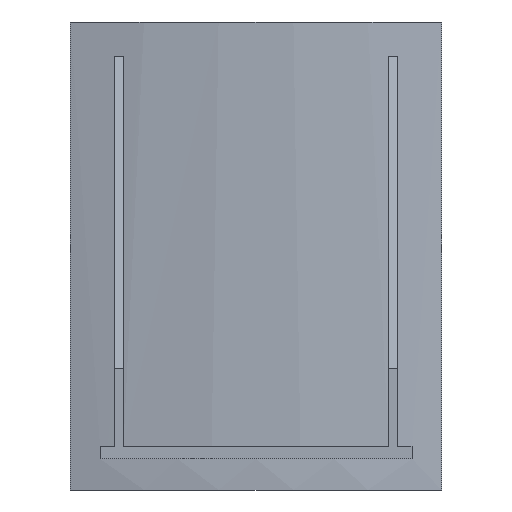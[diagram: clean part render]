
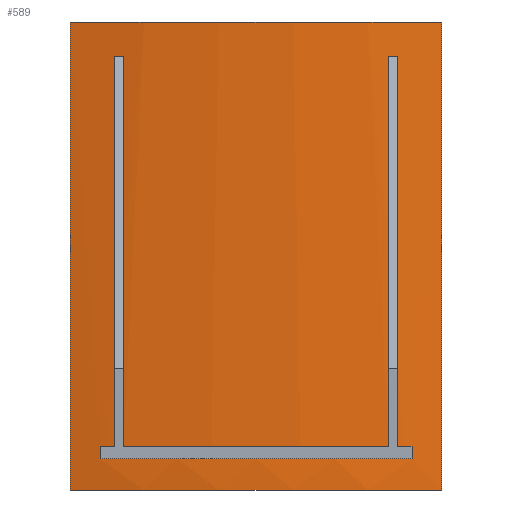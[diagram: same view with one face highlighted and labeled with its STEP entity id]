
A CAD part, left-side view. The second image highlights one B-rep face of the part: STEP entity #589.
In plain terms, the highlighted cylindrical face has radius 1043 mm (diameter 2086 mm), a partial arc.
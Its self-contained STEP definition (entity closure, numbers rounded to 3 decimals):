
#19=FACE_BOUND('',#106,.T.);
#70=FACE_OUTER_BOUND('',#105,.T.);
#105=EDGE_LOOP('',(#524,#525,#526,#527));
#106=EDGE_LOOP('',(#528,#529,#530,#531,#532,#533,#534,#535,#536,#537));
#165=LINE('',#955,#231);
#167=LINE('',#959,#233);
#168=LINE('',#967,#234);
#169=LINE('',#970,#235);
#170=LINE('',#971,#236);
#171=LINE('',#972,#237);
#231=VECTOR('',#785,10.);
#233=VECTOR('',#789,10.);
#234=VECTOR('',#798,10.);
#235=VECTOR('',#801,10.);
#236=VECTOR('',#802,10.);
#237=VECTOR('',#803,10.);
#252=CIRCLE('',#643,1043.);
#253=CIRCLE('',#645,1043.);
#254=CIRCLE('',#647,1043.);
#255=CIRCLE('',#651,1043.);
#256=CIRCLE('',#653,1043.);
#257=CIRCLE('',#654,1043.);
#284=VERTEX_POINT('',#892);
#285=VERTEX_POINT('',#894);
#298=VERTEX_POINT('',#933);
#299=VERTEX_POINT('',#935);
#300=VERTEX_POINT('',#943);
#301=VERTEX_POINT('',#947);
#302=VERTEX_POINT('',#953);
#303=VERTEX_POINT('',#957);
#304=VERTEX_POINT('',#963);
#305=VERTEX_POINT('',#964);
#306=VERTEX_POINT('',#966);
#307=VERTEX_POINT('',#968);
#370=EDGE_CURVE('',#300,#298,#252,.T.);
#373=EDGE_CURVE('',#285,#301,#253,.T.);
#374=EDGE_CURVE('',#298,#285,#254,.T.);
#376=EDGE_CURVE('',#301,#302,#165,.T.);
#378=EDGE_CURVE('',#303,#300,#167,.T.);
#379=EDGE_CURVE('',#302,#303,#255,.T.);
#380=EDGE_CURVE('',#304,#305,#256,.T.);
#381=EDGE_CURVE('',#305,#306,#168,.T.);
#382=EDGE_CURVE('',#307,#306,#257,.T.);
#383=EDGE_CURVE('',#304,#307,#169,.T.);
#384=EDGE_CURVE('',#298,#299,#170,.T.);
#385=EDGE_CURVE('',#285,#284,#171,.T.);
#524=ORIENTED_EDGE('',*,*,#380,.T.);
#525=ORIENTED_EDGE('',*,*,#381,.T.);
#526=ORIENTED_EDGE('',*,*,#382,.F.);
#527=ORIENTED_EDGE('',*,*,#383,.F.);
#528=ORIENTED_EDGE('',*,*,#378,.T.);
#529=ORIENTED_EDGE('',*,*,#370,.T.);
#530=ORIENTED_EDGE('',*,*,#384,.T.);
#531=ORIENTED_EDGE('',*,*,#384,.F.);
#532=ORIENTED_EDGE('',*,*,#374,.T.);
#533=ORIENTED_EDGE('',*,*,#385,.T.);
#534=ORIENTED_EDGE('',*,*,#385,.F.);
#535=ORIENTED_EDGE('',*,*,#373,.T.);
#536=ORIENTED_EDGE('',*,*,#376,.T.);
#537=ORIENTED_EDGE('',*,*,#379,.T.);
#562=CYLINDRICAL_SURFACE('',#652,1043.);
#589=ADVANCED_FACE('',(#70,#19),#562,.T.);
#643=AXIS2_PLACEMENT_3D('',#944,#770,#771);
#645=AXIS2_PLACEMENT_3D('',#949,#776,#777);
#647=AXIS2_PLACEMENT_3D('',#951,#780,#781);
#651=AXIS2_PLACEMENT_3D('',#961,#792,#793);
#652=AXIS2_PLACEMENT_3D('',#962,#794,#795);
#653=AXIS2_PLACEMENT_3D('',#965,#796,#797);
#654=AXIS2_PLACEMENT_3D('',#969,#799,#800);
#770=DIRECTION('center_axis',(0.,0.,1.));
#771=DIRECTION('ref_axis',(-0.974,0.228,0.));
#776=DIRECTION('center_axis',(0.,0.,1.));
#777=DIRECTION('ref_axis',(-0.974,0.228,0.));
#780=DIRECTION('center_axis',(0.,0.,1.));
#781=DIRECTION('ref_axis',(-0.974,0.228,0.));
#785=DIRECTION('',(0.,0.,-1.));
#789=DIRECTION('',(0.,0.,1.));
#792=DIRECTION('center_axis',(0.,0.,-1.));
#793=DIRECTION('ref_axis',(-0.974,0.228,0.));
#794=DIRECTION('center_axis',(0.,0.,1.));
#795=DIRECTION('ref_axis',(-0.974,0.228,0.));
#796=DIRECTION('center_axis',(0.,0.,1.));
#797=DIRECTION('ref_axis',(-0.974,0.228,0.));
#798=DIRECTION('',(0.,0.,1.));
#799=DIRECTION('center_axis',(0.,0.,1.));
#800=DIRECTION('ref_axis',(-0.974,0.228,0.));
#801=DIRECTION('',(0.,0.,1.));
#802=DIRECTION('',(0.,0.,1.));
#803=DIRECTION('',(0.,0.,1.));
#892=CARTESIAN_POINT('',(-1029.052,-170.,556.));
#894=CARTESIAN_POINT('',(-1029.052,-170.,56.));
#933=CARTESIAN_POINT('',(-1029.052,170.,56.));
#935=CARTESIAN_POINT('',(-1029.052,170.,556.));
#943=CARTESIAN_POINT('',(-1023.645,200.,56.));
#944=CARTESIAN_POINT('Origin',(0.,0.,56.));
#947=CARTESIAN_POINT('',(-1023.645,-200.,56.));
#949=CARTESIAN_POINT('Origin',(0.,0.,56.));
#951=CARTESIAN_POINT('Origin',(0.,0.,56.));
#953=CARTESIAN_POINT('',(-1023.645,-200.,40.));
#955=CARTESIAN_POINT('',(-1023.645,-200.,0.));
#957=CARTESIAN_POINT('',(-1023.645,200.,40.));
#959=CARTESIAN_POINT('',(-1023.645,200.,0.));
#961=CARTESIAN_POINT('Origin',(0.,0.,40.));
#962=CARTESIAN_POINT('Origin',(0.,0.,0.));
#963=CARTESIAN_POINT('',(-1015.509,237.888,0.));
#964=CARTESIAN_POINT('',(-1015.509,-237.888,0.));
#965=CARTESIAN_POINT('Origin',(0.,0.,0.));
#966=CARTESIAN_POINT('',(-1015.509,-237.888,600.));
#967=CARTESIAN_POINT('',(-1015.509,-237.888,0.));
#968=CARTESIAN_POINT('',(-1015.509,237.888,600.));
#969=CARTESIAN_POINT('Origin',(0.,0.,600.));
#970=CARTESIAN_POINT('',(-1015.509,237.888,0.));
#971=CARTESIAN_POINT('',(-1029.052,170.,0.));
#972=CARTESIAN_POINT('',(-1029.052,-170.,0.));
